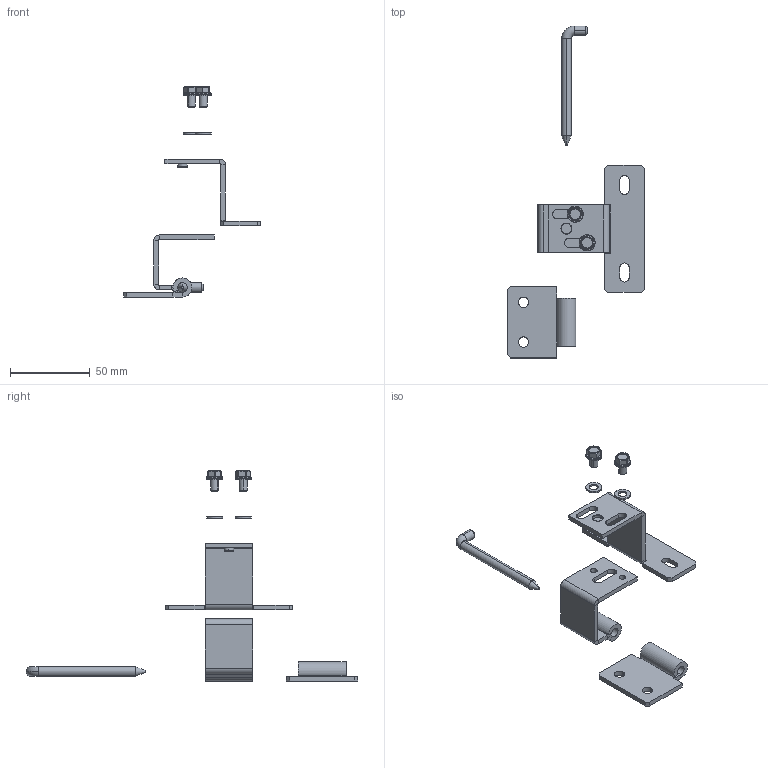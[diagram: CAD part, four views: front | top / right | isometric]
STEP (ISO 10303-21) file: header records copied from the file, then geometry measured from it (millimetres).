
FILE_DESCRIPTION (( 'STEP AP214' ), '1' );
FILE_NAME ('ST46-4.001.STEP', '2012-01-27T11:19:12', ( 'Techniczny' ), ( 'RST Roztocze' ), 'SwSTEP 2.0', 'SolidWorks 2010', '' );
FILE_SCHEMA (( 'AUTOMOTIVE_DESIGN' ));
Length unit declared in the file: millimetre
Products named in the file (7): RST 120NaB 04050150-1-02; RST 120NaB 04050150-1-01; ST27.001.03_Default; 3B.St46.02.00.00; Œruba z ³bem szeœciok¹tnym z podk³adk¹ z zabezpieczeniem M5x8; Podk³adka M5 DIN 126; ST46-4.001
Assembly tree (8 placements, depth 2):
  ST46-4.001
    3B.St46.02.00.00
    ST27.001.03_Default
    RST 120NaB 04050150-1-01
    Œruba z ³bem szeœciok¹tnym z podk³adk¹ z zabezpieczeniem M5x8  x2
    Podk³adka M5 DIN 126  x2
    RST 120NaB 04050150-1-02
Bounding box: 86 x 208.72 x 132.05 mm (x, y, z)
Volume: 30361.1 mm3; surface area: 24247 mm2
Topology: 8 solids, 8 shells, 544 faces, 1220 edges, 698 vertices
Faces by surface type: plane 431, cylinder 77, cone 26, torus 10
Entity records: 9740 total; most frequent: DIRECTION 1682, CARTESIAN_POINT 1653, ORIENTED_EDGE 1546, EDGE_CURVE 773, AXIS2_PLACEMENT_3D 578, LINE 526, VECTOR 526, VERTEX_POINT 449
